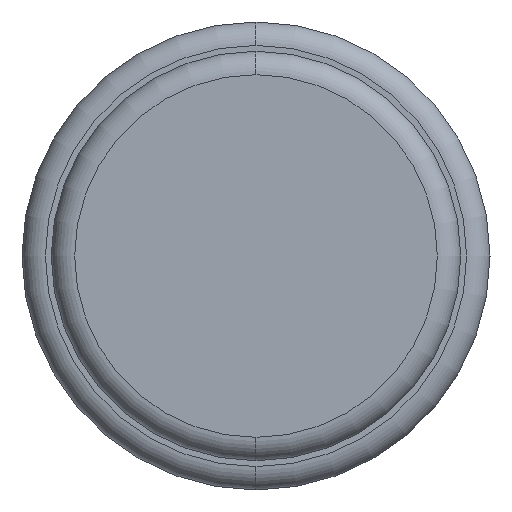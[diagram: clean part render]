
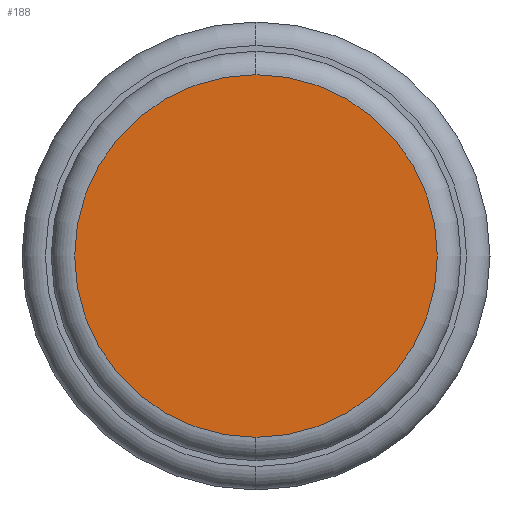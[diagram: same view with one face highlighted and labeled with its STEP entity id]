
A CAD part, left-side view. The second image highlights one B-rep face of the part: STEP entity #188.
In plain terms, the highlighted planar face has unit normal (-1, 0, 0).
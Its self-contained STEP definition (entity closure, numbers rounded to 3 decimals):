
#39=CARTESIAN_POINT('',(-12.,0.,0.));
#40=DIRECTION('',(-1.,0.,0.));
#41=DIRECTION('',(0.,0.,-1.));
#42=AXIS2_PLACEMENT_3D('',#39,#40,#41);
#44=CARTESIAN_POINT('',(-12.,0.,0.));
#45=DIRECTION('',(1.,0.,0.));
#46=DIRECTION('',(0.,0.,-1.));
#47=AXIS2_PLACEMENT_3D('',#44,#45,#46);
#101=CARTESIAN_POINT('',(-12.,0.,-1.55));
#102=VERTEX_POINT('',#101);
#113=CARTESIAN_POINT('',(-12.,0.,1.55));
#114=VERTEX_POINT('',#113);
#179=CARTESIAN_POINT('',(-12.,0.,0.));
#180=DIRECTION('',(1.,0.,0.));
#181=DIRECTION('',(0.,0.,1.));
#182=AXIS2_PLACEMENT_3D('',#179,#180,#181);
#183=PLANE('',#182);
#184=ORIENTED_EDGE('',*,*,#158,.F.);
#185=ORIENTED_EDGE('',*,*,#174,.T.);
#186=EDGE_LOOP('',(#184,#185));
#187=FACE_OUTER_BOUND('',#186,.F.);
#188=ADVANCED_FACE('',(#187),#183,.F.);
#43=CIRCLE('',#42,1.55);
#48=CIRCLE('',#47,1.55);
#158=EDGE_CURVE('',#102,#114,#43,.T.);
#174=EDGE_CURVE('',#102,#114,#48,.T.);
